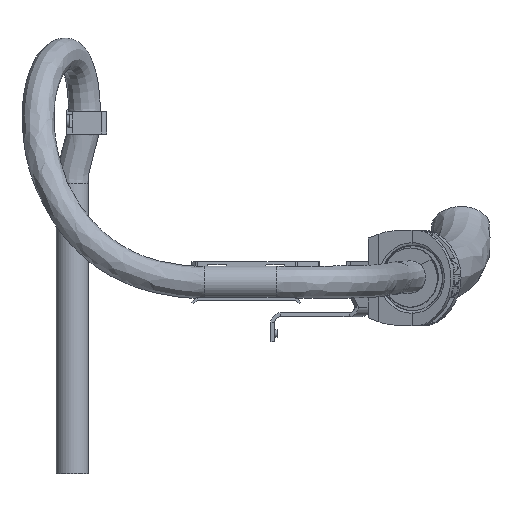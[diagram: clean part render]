
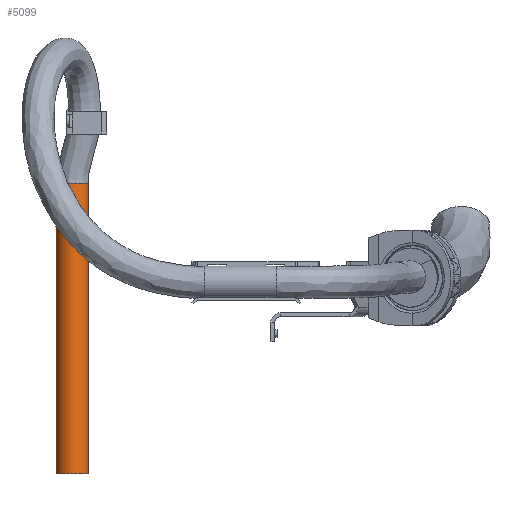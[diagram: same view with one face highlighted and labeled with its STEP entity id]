
A CAD part, left-side view. The second image highlights one B-rep face of the part: STEP entity #5099.
In plain terms, the highlighted cylindrical face has radius 25 mm (diameter 50 mm), a full revolution.
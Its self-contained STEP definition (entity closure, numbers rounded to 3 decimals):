
#882 = AXIS2_PLACEMENT_3D ( 'NONE', #14030, #16649, #11016 ) ;
#903 = CARTESIAN_POINT ( 'NONE',  ( 24.098, 27.628, 180.491 ) ) ;
#1287 = AXIS2_PLACEMENT_3D ( 'NONE', #903, #14372, #12652 ) ;
#2308 = FACE_OUTER_BOUND ( 'NONE', #5617, .T. ) ;
#2376 = VERTEX_POINT ( 'NONE', #15920 ) ;
#5099 = ADVANCED_FACE ( 'NONE', ( #2308, #18183 ), #10718, .T. ) ;
#5617 = EDGE_LOOP ( 'NONE', ( #18458 ) ) ;
#6888 = CIRCLE ( 'NONE', #1287, 25. ) ;
#7500 = DIRECTION ( 'NONE',  ( 0., 0., -1. ) ) ;
#7722 = ORIENTED_EDGE ( 'NONE', *, *, #16186, .F. ) ;
#8935 = CARTESIAN_POINT ( 'NONE',  ( 18.385, 3.289, 180.491 ) ) ;
#9978 = EDGE_LOOP ( 'NONE', ( #7722 ) ) ;
#10314 = EDGE_CURVE ( 'NONE', #2376, #2376, #17741, .T. ) ;
#10570 = CARTESIAN_POINT ( 'NONE',  ( 24.098, 27.628, 630.491 ) ) ;
#10584 = VERTEX_POINT ( 'NONE', #8935 ) ;
#10718 = CYLINDRICAL_SURFACE ( 'NONE', #882, 25. ) ;
#11016 = DIRECTION ( 'NONE',  ( 0., -1., 0. ) ) ;
#12652 = DIRECTION ( 'NONE',  ( -0.229, -0.974, 0. ) ) ;
#13108 = AXIS2_PLACEMENT_3D ( 'NONE', #10570, #7500, #17920 ) ;
#14030 = CARTESIAN_POINT ( 'NONE',  ( 24.098, 27.628, 180.491 ) ) ;
#14372 = DIRECTION ( 'NONE',  ( 0., 0., -1. ) ) ;
#15920 = CARTESIAN_POINT ( 'NONE',  ( 18.385, 3.289, 630.491 ) ) ;
#16186 = EDGE_CURVE ( 'NONE', #10584, #10584, #6888, .T. ) ;
#16649 = DIRECTION ( 'NONE',  ( 0., 0., 1. ) ) ;
#17741 = CIRCLE ( 'NONE', #13108, 25. ) ;
#17920 = DIRECTION ( 'NONE',  ( -0.229, -0.974, 0. ) ) ;
#18183 = FACE_OUTER_BOUND ( 'NONE', #9978, .T. ) ;
#18458 = ORIENTED_EDGE ( 'NONE', *, *, #10314, .T. ) ;
